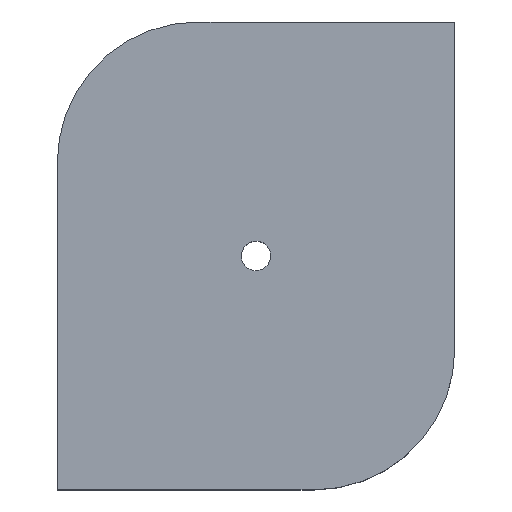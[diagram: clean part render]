
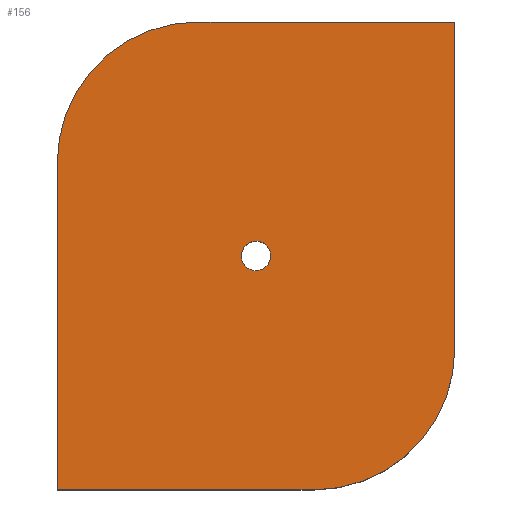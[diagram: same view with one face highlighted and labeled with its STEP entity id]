
A CAD part, top view. The second image highlights one B-rep face of the part: STEP entity #156.
In plain terms, the highlighted planar face has unit normal (0, 0, 1).
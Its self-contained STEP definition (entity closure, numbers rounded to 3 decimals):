
#63=CARTESIAN_POINT('Vertex',(52.825,68.508,28.)) ;
#77=CARTESIAN_POINT('Vertex',(60.175,64.492,28.)) ;
#80=CARTESIAN_POINT('Axis2P3D Location',(56.5,66.5,28.)) ;
#92=CARTESIAN_POINT('Axis2P3D Location',(0.,0.,28.)) ;
#97=CARTESIAN_POINT('Line Origine',(0.,46.5,28.)) ;
#101=CARTESIAN_POINT('Vertex',(0.,93.,28.)) ;
#103=CARTESIAN_POINT('Vertex',(0.,0.,28.)) ;
#106=CARTESIAN_POINT('Line Origine',(36.5,0.,28.)) ;
#110=CARTESIAN_POINT('Vertex',(73.,0.,28.)) ;
#113=CARTESIAN_POINT('Axis2P3D Location',(73.,40.,28.)) ;
#117=CARTESIAN_POINT('Vertex',(113.,40.,28.)) ;
#120=CARTESIAN_POINT('Line Origine',(113.,86.5,28.)) ;
#124=CARTESIAN_POINT('Vertex',(113.,133.,28.)) ;
#127=CARTESIAN_POINT('Line Origine',(76.5,133.,28.)) ;
#131=CARTESIAN_POINT('Vertex',(40.,133.,28.)) ;
#134=CARTESIAN_POINT('Axis2P3D Location',(40.,93.,28.)) ;
#147=CARTESIAN_POINT('Axis2P3D Location',(56.5,66.5,28.)) ;
#81=DIRECTION('Axis2P3D Direction',(0.,-0.,-1.)) ;
#93=DIRECTION('Axis2P3D Direction',(0.,0.,1.)) ;
#94=DIRECTION('Axis2P3D XDirection',(1.,0.,0.)) ;
#98=DIRECTION('Vector Direction',(0.,-1.,0.)) ;
#107=DIRECTION('Vector Direction',(1.,0.,0.)) ;
#114=DIRECTION('Axis2P3D Direction',(0.,0.,1.)) ;
#121=DIRECTION('Vector Direction',(0.,1.,0.)) ;
#128=DIRECTION('Vector Direction',(-1.,0.,0.)) ;
#135=DIRECTION('Axis2P3D Direction',(0.,0.,1.)) ;
#148=DIRECTION('Axis2P3D Direction',(0.,0.,1.)) ;
#82=AXIS2_PLACEMENT_3D('Circle Axis2P3D',#80,#81,$) ;
#95=AXIS2_PLACEMENT_3D('Plane Axis2P3D',#92,#93,#94) ;
#115=AXIS2_PLACEMENT_3D('Circle Axis2P3D',#113,#114,$) ;
#136=AXIS2_PLACEMENT_3D('Circle Axis2P3D',#134,#135,$) ;
#149=AXIS2_PLACEMENT_3D('Circle Axis2P3D',#147,#148,$) ;
#140=ORIENTED_EDGE('',*,*,#105,.T.) ;
#141=ORIENTED_EDGE('',*,*,#112,.T.) ;
#142=ORIENTED_EDGE('',*,*,#119,.F.) ;
#143=ORIENTED_EDGE('',*,*,#126,.T.) ;
#144=ORIENTED_EDGE('',*,*,#133,.T.) ;
#145=ORIENTED_EDGE('',*,*,#138,.F.) ;
#153=ORIENTED_EDGE('',*,*,#151,.F.) ;
#154=ORIENTED_EDGE('',*,*,#84,.F.) ;
#155=FACE_BOUND('',#152,.T.) ;
#99=VECTOR('Line Direction',#98,1.) ;
#108=VECTOR('Line Direction',#107,1.) ;
#122=VECTOR('Line Direction',#121,1.) ;
#129=VECTOR('Line Direction',#128,1.) ;
#156=ADVANCED_FACE('PartBody',(#146,#155),#96,.T.) ;
#83=CIRCLE('generated circle',#82,4.188) ;
#116=CIRCLE('generated circle',#115,40.) ;
#137=CIRCLE('generated circle',#136,40.) ;
#150=CIRCLE('generated circle',#149,4.188) ;
#84=EDGE_CURVE('',#78,#64,#83,.F.) ;
#105=EDGE_CURVE('',#102,#104,#100,.T.) ;
#112=EDGE_CURVE('',#104,#111,#109,.T.) ;
#119=EDGE_CURVE('',#118,#111,#116,.F.) ;
#126=EDGE_CURVE('',#118,#125,#123,.T.) ;
#133=EDGE_CURVE('',#125,#132,#130,.T.) ;
#138=EDGE_CURVE('',#102,#132,#137,.F.) ;
#151=EDGE_CURVE('',#64,#78,#150,.T.) ;
#139=EDGE_LOOP('',(#140,#141,#142,#143,#144,#145)) ;
#152=EDGE_LOOP('',(#153,#154)) ;
#146=FACE_OUTER_BOUND('',#139,.T.) ;
#100=LINE('Line',#97,#99) ;
#109=LINE('Line',#106,#108) ;
#123=LINE('Line',#120,#122) ;
#130=LINE('Line',#127,#129) ;
#96=PLANE('',#95) ;
#64=VERTEX_POINT('',#63) ;
#78=VERTEX_POINT('',#77) ;
#102=VERTEX_POINT('',#101) ;
#104=VERTEX_POINT('',#103) ;
#111=VERTEX_POINT('',#110) ;
#118=VERTEX_POINT('',#117) ;
#125=VERTEX_POINT('',#124) ;
#132=VERTEX_POINT('',#131) ;
